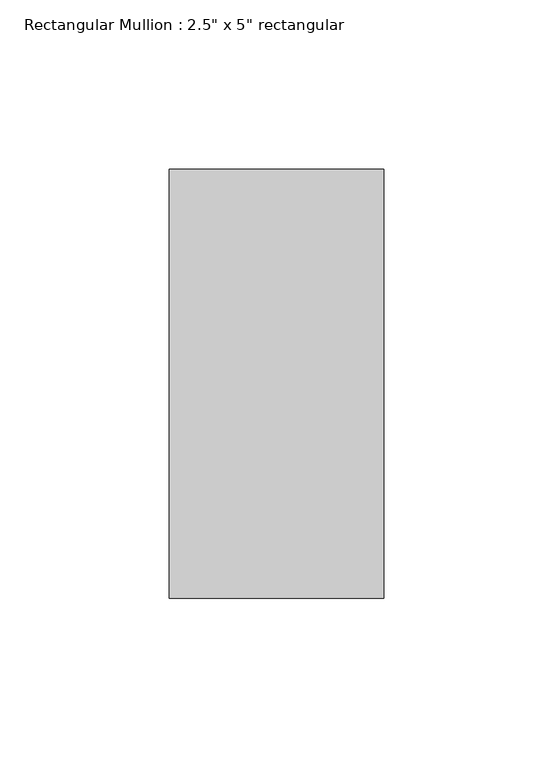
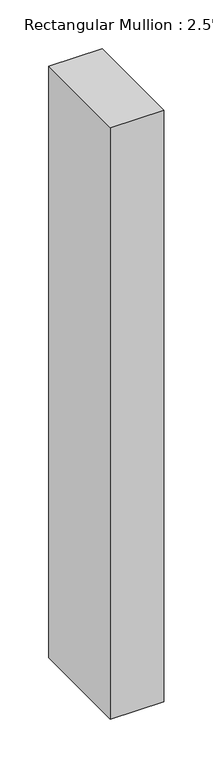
"""IFC4 building model written with IfcOpenShell, lengths in millimetres: member geometry."""

from ifc_helpers import new_model, si_unit, frame, origin, place, context, project, spatial, polyline, outline, extrude, source, transform, mapped, element, save


def member_0a5976d9(model_context):
    return source(origin(), model_context, "Body", "SweptSolid", [
        extrude(outline(polyline([(31.75, 63.5), (31.75, -63.5), (-31.75, -63.5), (-31.75, 63.5), (31.75, 63.5)])), frame((0.0, 0.0, -742.4913134), z_axis=(0.0, 0.0, 1.0), x_axis=(1.0, 0.0, 0.0)), (0.0, 0.0, 1.0), 742.4913134),
    ])


if __name__ == "__main__":
    model = new_model("IFC4")
    model_context = context("Model", 3, world=origin())
    ifc_project = project(units=[si_unit("LENGTHUNIT", "METRE", prefix="MILLI")], contexts=[model_context])
    site = spatial("IfcSite", under=ifc_project)
    building = spatial("IfcBuilding", under=site)
    placement = place(None, origin())
    member_shape = member_0a5976d9(model_context)
    element("IfcMember", 1, ObjectType="Rectangular Mullion : 2.5\" x 5\" rectangular", at=placement, inside=building, context=model_context, shape_type="MappedRepresentation", body=[
        mapped(member_shape, transform((0.0, 0.0, 0.0), x_axis=(1.0, 0.0, 0.0), y_axis=(0.0, 1.0, 0.0), z_axis=(0.0, 0.0, 1.0))),
    ])
    save(model, "model.ifc")
